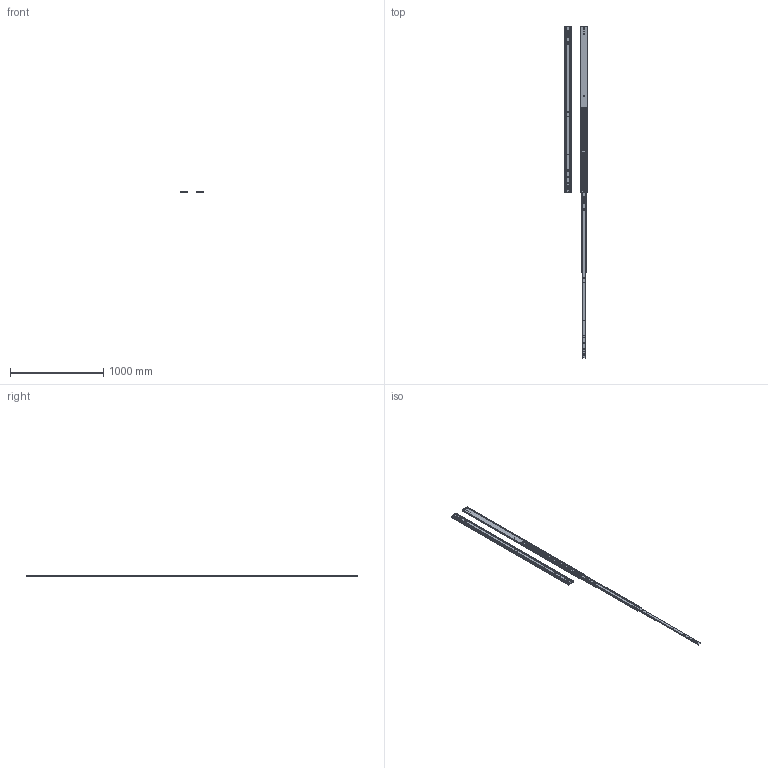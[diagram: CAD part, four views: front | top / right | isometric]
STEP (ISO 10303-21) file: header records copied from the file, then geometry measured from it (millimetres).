
FILE_DESCRIPTION((''),'2;1');
FILE_NAME('ASSEM1_1_2_3_ASM','2026-04-08T10:36:05',('T260078'),(''),'CREO PARAMETRIC BY PTC INC, 2025123','CREO PARAMETRIC BY PTC INC, 2025123','');
FILE_SCHEMA(('CONFIG_CONTROL_DESIGN','SHAPE_APPEARANCE_LAYERS_GROUPS'));
Length unit declared in the file: millimetre
Products named in the file (6): 76J01-70_X2_540B_X0_-M; 76J01-70_X2_540B_X0_-I; 76J01-70_X2_540B_X0_-O; 76J01-70_X2_540_X0__ASM; 76J01-70_X2_540B_X0_-_X2_5C5595_ASM; ASSEM1_1_2_3_ASM
Assembly tree (8 placements, depth 3):
  ASSEM1_1_2_3_ASM
    76J01-70_X2_540_X0__ASM
      76J01-70_X2_540B_X0_-M
      76J01-70_X2_540B_X0_-I
      76J01-70_X2_540B_X0_-O
    76J01-70_X2_540B_X0_-_X2_5C5595_ASM
      76J01-70_X2_540B_X0_-M
      76J01-70_X2_540B_X0_-I
      76J01-70_X2_540B_X0_-O
Bounding box: 245.44 x 3556 x 19.3 mm (x, y, z)
Volume: 2209581.3 mm3; surface area: 1966131.3 mm2
Topology: 6 solids, 6 shells, 380 faces, 1228 edges, 848 vertices
Faces by surface type: cylinder 212, plane 168
Entity records: 8392 total; most frequent: CARTESIAN_POINT 1337, DIRECTION 1244, ORIENTED_EDGE 1228, EDGE_CURVE 614, AXIS2_PLACEMENT_3D 444, VERTEX_POINT 424, VECTOR 356, LINE 356
